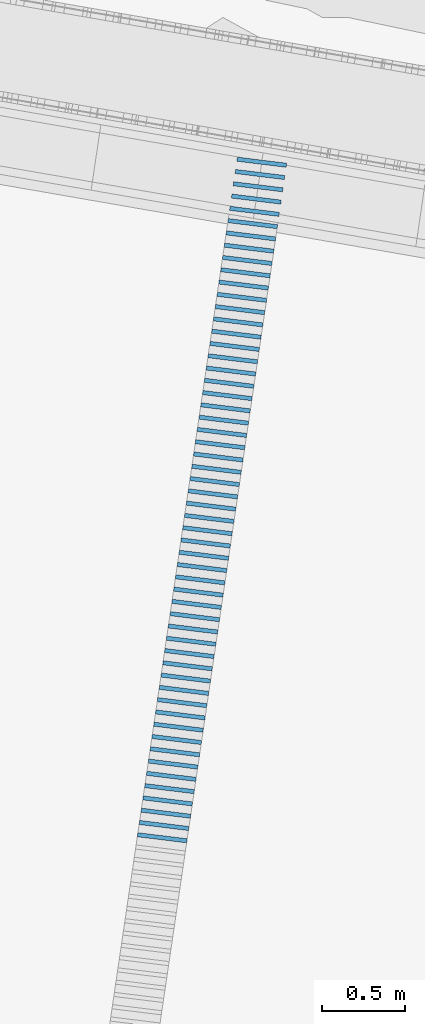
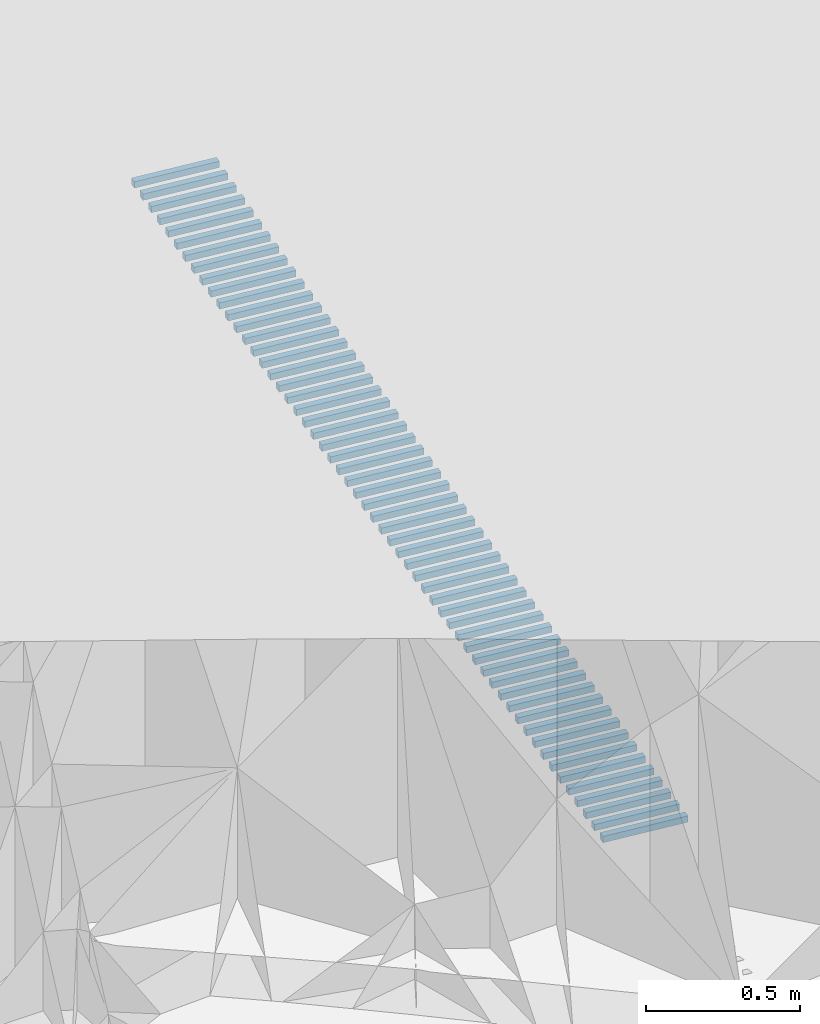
# Not in any storey, part 2 of 46: 56 members.
"""IFC4 model written with IfcOpenShell, lengths in metres."""

from ifc_helpers import new_model, si_unit, direction, frame, origin_with_axes, place, context, subcontext, project, spatial, rectangle, extrude, material, material_profile, profile_set, profile_usage, type_object, element, save


model = new_model("IFC4")

# Units and contexts
model_context = context("Model", 3, precision=1e-05, world=origin_with_axes(), true_north=direction((0.0, 1.0)))
body_context = subcontext(model_context, "Body", "Model", "MODEL_VIEW")
ifc_project = project(units=[si_unit("VOLUMEUNIT", "CUBIC_METRE"), si_unit("LENGTHUNIT", "METRE"), si_unit("AREAUNIT", "SQUARE_METRE")], contexts=[model_context])

# Site
site_placement = place(None, origin_with_axes())
site = spatial("IfcSite", under=ifc_project, at=site_placement, Name="Lares · Rua das Mercês · artigo 4771")

# Members
ifc_material = material(Name="Aço galvanizado / Stahl verzinkt", Category="steel")
ifc_material_profile = material_profile(ifc_material, rectangle(XDim=0.025, YDim=0.025))
ifc_profile_set = profile_set([ifc_material_profile], Name="R0.025")
ifc_profile_usage_1 = profile_usage(ifc_profile_set)
member_type = type_object("IfcMemberType", Name="R0.025 / galvanized", PredefinedType="NOTDEFINED", material=ifc_profile_set)
member_1_placement = place(site_placement, frame((49.1786063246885, 7.70309621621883, 13.6760261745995), z_axis=(0.992517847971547, -0.12209963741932, 0.0), x_axis=(-0.12209963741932, -0.992517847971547, 0.0)))
element("IfcMember", 1, at=member_1_placement, inside=site, type_object=member_type, material=ifc_profile_usage_1, Name="Interceção · grelha estacionamento", context=body_context, shape_type="SweptSolid", body=[
    extrude(rectangle(XDim=0.025, YDim=0.025), origin_with_axes(), (0.0, 0.0, 1.0), 0.300000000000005),
])
ifc_profile_usage_2 = profile_usage(ifc_profile_set)
member_2_placement = place(site_placement, frame((49.1895321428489, 7.77729612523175, 13.6741511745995), z_axis=(0.992517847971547, -0.12209963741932, 0.0), x_axis=(-0.12209963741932, -0.992517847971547, 0.0)))
element("IfcMember", 2, at=member_2_placement, inside=site, type_object=member_type, material=ifc_profile_usage_2, Name="Interceção · grelha estacionamento", context=body_context, shape_type="SweptSolid", body=[
    extrude(rectangle(XDim=0.025, YDim=0.025), origin_with_axes(), (0.0, 0.0, 1.0), 0.300000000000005),
])
ifc_profile_usage_3 = profile_usage(ifc_profile_set)
member_3_placement = place(site_placement, frame((49.2004579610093, 7.85149603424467, 13.6722761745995), z_axis=(0.992517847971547, -0.12209963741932, 0.0), x_axis=(-0.12209963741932, -0.992517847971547, 0.0)))
element("IfcMember", 3, at=member_3_placement, inside=site, type_object=member_type, material=ifc_profile_usage_3, Name="Interceção · grelha estacionamento", context=body_context, shape_type="SweptSolid", body=[
    extrude(rectangle(XDim=0.025, YDim=0.025), origin_with_axes(), (0.0, 0.0, 1.0), 0.300000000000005),
])
ifc_profile_usage_4 = profile_usage(ifc_profile_set)
member_4_placement = place(site_placement, frame((49.2113837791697, 7.92569594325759, 13.6704011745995), z_axis=(0.992517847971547, -0.12209963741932, 0.0), x_axis=(-0.12209963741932, -0.992517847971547, 0.0)))
element("IfcMember", 4, at=member_4_placement, inside=site, type_object=member_type, material=ifc_profile_usage_4, Name="Interceção · grelha estacionamento", context=body_context, shape_type="SweptSolid", body=[
    extrude(rectangle(XDim=0.025, YDim=0.025), origin_with_axes(), (0.0, 0.0, 1.0), 0.300000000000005),
])
ifc_profile_usage_5 = profile_usage(ifc_profile_set)
member_5_placement = place(site_placement, frame((49.2223095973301, 7.99989585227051, 13.6685261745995), z_axis=(0.992517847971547, -0.12209963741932, 0.0), x_axis=(-0.12209963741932, -0.992517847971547, 0.0)))
element("IfcMember", 5, at=member_5_placement, inside=site, type_object=member_type, material=ifc_profile_usage_5, Name="Interceção · grelha estacionamento", context=body_context, shape_type="SweptSolid", body=[
    extrude(rectangle(XDim=0.025, YDim=0.025), origin_with_axes(), (0.0, 0.0, 1.0), 0.300000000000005),
])
ifc_profile_usage_6 = profile_usage(ifc_profile_set)
member_6_placement = place(site_placement, frame((49.2332354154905, 8.07409576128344, 13.6666511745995), z_axis=(0.992517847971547, -0.12209963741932, 0.0), x_axis=(-0.12209963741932, -0.992517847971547, 0.0)))
element("IfcMember", 6, at=member_6_placement, inside=site, type_object=member_type, material=ifc_profile_usage_6, Name="Interceção · grelha estacionamento", context=body_context, shape_type="SweptSolid", body=[
    extrude(rectangle(XDim=0.025, YDim=0.025), origin_with_axes(), (0.0, 0.0, 1.0), 0.300000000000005),
])
ifc_profile_usage_7 = profile_usage(ifc_profile_set)
member_7_placement = place(site_placement, frame((49.244161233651, 8.14829567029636, 13.6647761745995), z_axis=(0.992517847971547, -0.12209963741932, 0.0), x_axis=(-0.12209963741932, -0.992517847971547, 0.0)))
element("IfcMember", 7, at=member_7_placement, inside=site, type_object=member_type, material=ifc_profile_usage_7, Name="Interceção · grelha estacionamento", context=body_context, shape_type="SweptSolid", body=[
    extrude(rectangle(XDim=0.025, YDim=0.025), origin_with_axes(), (0.0, 0.0, 1.0), 0.300000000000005),
])
ifc_profile_usage_8 = profile_usage(ifc_profile_set)
member_8_placement = place(site_placement, frame((49.2550870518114, 8.22249557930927, 13.6629011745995), z_axis=(0.992517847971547, -0.12209963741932, 0.0), x_axis=(-0.12209963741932, -0.992517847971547, 0.0)))
element("IfcMember", 8, at=member_8_placement, inside=site, type_object=member_type, material=ifc_profile_usage_8, Name="Interceção · grelha estacionamento", context=body_context, shape_type="SweptSolid", body=[
    extrude(rectangle(XDim=0.025, YDim=0.025), origin_with_axes(), (0.0, 0.0, 1.0), 0.300000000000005),
])
ifc_profile_usage_9 = profile_usage(ifc_profile_set)
member_9_placement = place(site_placement, frame((49.2660128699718, 8.2966954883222, 13.6610261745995), z_axis=(0.992517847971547, -0.12209963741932, 0.0), x_axis=(-0.12209963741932, -0.992517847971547, 0.0)))
element("IfcMember", 9, at=member_9_placement, inside=site, type_object=member_type, material=ifc_profile_usage_9, Name="Interceção · grelha estacionamento", context=body_context, shape_type="SweptSolid", body=[
    extrude(rectangle(XDim=0.025, YDim=0.025), origin_with_axes(), (0.0, 0.0, 1.0), 0.300000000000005),
])
ifc_profile_usage_10 = profile_usage(ifc_profile_set)
member_10_placement = place(site_placement, frame((49.2769386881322, 8.37089539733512, 13.6591511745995), z_axis=(0.992517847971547, -0.12209963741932, 0.0), x_axis=(-0.12209963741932, -0.992517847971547, 0.0)))
element("IfcMember", 10, at=member_10_placement, inside=site, type_object=member_type, material=ifc_profile_usage_10, Name="Interceção · grelha estacionamento", context=body_context, shape_type="SweptSolid", body=[
    extrude(rectangle(XDim=0.025, YDim=0.025), origin_with_axes(), (0.0, 0.0, 1.0), 0.300000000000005),
])
ifc_profile_usage_11 = profile_usage(ifc_profile_set)
member_11_placement = place(site_placement, frame((49.2878645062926, 8.44509530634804, 13.6572761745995), z_axis=(0.992517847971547, -0.12209963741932, 0.0), x_axis=(-0.12209963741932, -0.992517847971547, 0.0)))
element("IfcMember", 11, at=member_11_placement, inside=site, type_object=member_type, material=ifc_profile_usage_11, Name="Interceção · grelha estacionamento", context=body_context, shape_type="SweptSolid", body=[
    extrude(rectangle(XDim=0.025, YDim=0.025), origin_with_axes(), (0.0, 0.0, 1.0), 0.300000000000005),
])
ifc_profile_usage_12 = profile_usage(ifc_profile_set)
member_12_placement = place(site_placement, frame((49.298790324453, 8.51929521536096, 13.6554011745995), z_axis=(0.992517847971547, -0.12209963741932, 0.0), x_axis=(-0.12209963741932, -0.992517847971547, 0.0)))
element("IfcMember", 12, at=member_12_placement, inside=site, type_object=member_type, material=ifc_profile_usage_12, Name="Interceção · grelha estacionamento", context=body_context, shape_type="SweptSolid", body=[
    extrude(rectangle(XDim=0.025, YDim=0.025), origin_with_axes(), (0.0, 0.0, 1.0), 0.300000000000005),
])
ifc_profile_usage_13 = profile_usage(ifc_profile_set)
member_13_placement = place(site_placement, frame((49.3097161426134, 8.59349512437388, 13.6535261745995), z_axis=(0.992517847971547, -0.12209963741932, 0.0), x_axis=(-0.12209963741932, -0.992517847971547, 0.0)))
element("IfcMember", 13, at=member_13_placement, inside=site, type_object=member_type, material=ifc_profile_usage_13, Name="Interceção · grelha estacionamento", context=body_context, shape_type="SweptSolid", body=[
    extrude(rectangle(XDim=0.025, YDim=0.025), origin_with_axes(), (0.0, 0.0, 1.0), 0.300000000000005),
])
ifc_profile_usage_14 = profile_usage(ifc_profile_set)
member_14_placement = place(site_placement, frame((49.3206419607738, 8.6676950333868, 13.6516511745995), z_axis=(0.992517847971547, -0.12209963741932, 0.0), x_axis=(-0.12209963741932, -0.992517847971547, 0.0)))
element("IfcMember", 14, at=member_14_placement, inside=site, type_object=member_type, material=ifc_profile_usage_14, Name="Interceção · grelha estacionamento", context=body_context, shape_type="SweptSolid", body=[
    extrude(rectangle(XDim=0.025, YDim=0.025), origin_with_axes(), (0.0, 0.0, 1.0), 0.300000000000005),
])
ifc_profile_usage_15 = profile_usage(ifc_profile_set)
member_15_placement = place(site_placement, frame((49.3315677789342, 8.74189494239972, 13.6497761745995), z_axis=(0.992517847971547, -0.12209963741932, 0.0), x_axis=(-0.12209963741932, -0.992517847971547, 0.0)))
element("IfcMember", 15, at=member_15_placement, inside=site, type_object=member_type, material=ifc_profile_usage_15, Name="Interceção · grelha estacionamento", context=body_context, shape_type="SweptSolid", body=[
    extrude(rectangle(XDim=0.025, YDim=0.025), origin_with_axes(), (0.0, 0.0, 1.0), 0.300000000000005),
])
ifc_profile_usage_16 = profile_usage(ifc_profile_set)
member_16_placement = place(site_placement, frame((49.3424935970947, 8.81609485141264, 13.6479011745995), z_axis=(0.992517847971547, -0.12209963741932, 0.0), x_axis=(-0.12209963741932, -0.992517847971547, 0.0)))
element("IfcMember", 16, at=member_16_placement, inside=site, type_object=member_type, material=ifc_profile_usage_16, Name="Interceção · grelha estacionamento", context=body_context, shape_type="SweptSolid", body=[
    extrude(rectangle(XDim=0.025, YDim=0.025), origin_with_axes(), (0.0, 0.0, 1.0), 0.300000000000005),
])
ifc_profile_usage_17 = profile_usage(ifc_profile_set)
member_17_placement = place(site_placement, frame((49.3534194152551, 8.89029476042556, 13.6460261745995), z_axis=(0.992517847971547, -0.12209963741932, 0.0), x_axis=(-0.12209963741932, -0.992517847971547, 0.0)))
element("IfcMember", 17, at=member_17_placement, inside=site, type_object=member_type, material=ifc_profile_usage_17, Name="Interceção · grelha estacionamento", context=body_context, shape_type="SweptSolid", body=[
    extrude(rectangle(XDim=0.025, YDim=0.025), origin_with_axes(), (0.0, 0.0, 1.0), 0.300000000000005),
])
ifc_profile_usage_18 = profile_usage(ifc_profile_set)
member_18_placement = place(site_placement, frame((49.3643452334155, 8.96449466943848, 13.6441511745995), z_axis=(0.992517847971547, -0.12209963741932, 0.0), x_axis=(-0.12209963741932, -0.992517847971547, 0.0)))
element("IfcMember", 18, at=member_18_placement, inside=site, type_object=member_type, material=ifc_profile_usage_18, Name="Interceção · grelha estacionamento", context=body_context, shape_type="SweptSolid", body=[
    extrude(rectangle(XDim=0.025, YDim=0.025), origin_with_axes(), (0.0, 0.0, 1.0), 0.300000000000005),
])
ifc_profile_usage_19 = profile_usage(ifc_profile_set)
member_19_placement = place(site_placement, frame((49.3752710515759, 9.0386945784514, 13.6422761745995), z_axis=(0.992517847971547, -0.12209963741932, 0.0), x_axis=(-0.12209963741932, -0.992517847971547, 0.0)))
element("IfcMember", 19, at=member_19_placement, inside=site, type_object=member_type, material=ifc_profile_usage_19, Name="Interceção · grelha estacionamento", context=body_context, shape_type="SweptSolid", body=[
    extrude(rectangle(XDim=0.025, YDim=0.025), origin_with_axes(), (0.0, 0.0, 1.0), 0.300000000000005),
])
ifc_profile_usage_20 = profile_usage(ifc_profile_set)
member_20_placement = place(site_placement, frame((49.3861968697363, 9.11289448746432, 13.6404011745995), z_axis=(0.992517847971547, -0.12209963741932, 0.0), x_axis=(-0.12209963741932, -0.992517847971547, 0.0)))
element("IfcMember", 20, at=member_20_placement, inside=site, type_object=member_type, material=ifc_profile_usage_20, Name="Interceção · grelha estacionamento", context=body_context, shape_type="SweptSolid", body=[
    extrude(rectangle(XDim=0.025, YDim=0.025), origin_with_axes(), (0.0, 0.0, 1.0), 0.300000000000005),
])
ifc_profile_usage_21 = profile_usage(ifc_profile_set)
member_21_placement = place(site_placement, frame((49.3971226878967, 9.18709439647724, 13.6385261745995), z_axis=(0.992517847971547, -0.12209963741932, 0.0), x_axis=(-0.12209963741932, -0.992517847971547, 0.0)))
element("IfcMember", 21, at=member_21_placement, inside=site, type_object=member_type, material=ifc_profile_usage_21, Name="Interceção · grelha estacionamento", context=body_context, shape_type="SweptSolid", body=[
    extrude(rectangle(XDim=0.025, YDim=0.025), origin_with_axes(), (0.0, 0.0, 1.0), 0.300000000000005),
])
ifc_profile_usage_22 = profile_usage(ifc_profile_set)
member_22_placement = place(site_placement, frame((49.4080485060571, 9.26129430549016, 13.6366511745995), z_axis=(0.992517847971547, -0.12209963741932, 0.0), x_axis=(-0.12209963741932, -0.992517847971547, 0.0)))
element("IfcMember", 22, at=member_22_placement, inside=site, type_object=member_type, material=ifc_profile_usage_22, Name="Interceção · grelha estacionamento", context=body_context, shape_type="SweptSolid", body=[
    extrude(rectangle(XDim=0.025, YDim=0.025), origin_with_axes(), (0.0, 0.0, 1.0), 0.300000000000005),
])
ifc_profile_usage_23 = profile_usage(ifc_profile_set)
member_23_placement = place(site_placement, frame((49.4189743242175, 9.33549421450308, 13.6347761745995), z_axis=(0.992517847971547, -0.12209963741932, 0.0), x_axis=(-0.12209963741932, -0.992517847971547, 0.0)))
element("IfcMember", 23, at=member_23_placement, inside=site, type_object=member_type, material=ifc_profile_usage_23, Name="Interceção · grelha estacionamento", context=body_context, shape_type="SweptSolid", body=[
    extrude(rectangle(XDim=0.025, YDim=0.025), origin_with_axes(), (0.0, 0.0, 1.0), 0.300000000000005),
])
ifc_profile_usage_24 = profile_usage(ifc_profile_set)
member_24_placement = place(site_placement, frame((49.4299001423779, 9.409694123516, 13.6329011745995), z_axis=(0.992517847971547, -0.12209963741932, 0.0), x_axis=(-0.12209963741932, -0.992517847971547, 0.0)))
element("IfcMember", 24, at=member_24_placement, inside=site, type_object=member_type, material=ifc_profile_usage_24, Name="Interceção · grelha estacionamento", context=body_context, shape_type="SweptSolid", body=[
    extrude(rectangle(XDim=0.025, YDim=0.025), origin_with_axes(), (0.0, 0.0, 1.0), 0.300000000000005),
])
ifc_profile_usage_25 = profile_usage(ifc_profile_set)
member_25_placement = place(site_placement, frame((49.4408259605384, 9.48389403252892, 13.6310261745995), z_axis=(0.992517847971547, -0.12209963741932, 0.0), x_axis=(-0.12209963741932, -0.992517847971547, 0.0)))
element("IfcMember", 25, at=member_25_placement, inside=site, type_object=member_type, material=ifc_profile_usage_25, Name="Interceção · grelha estacionamento", context=body_context, shape_type="SweptSolid", body=[
    extrude(rectangle(XDim=0.025, YDim=0.025), origin_with_axes(), (0.0, 0.0, 1.0), 0.300000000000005),
])
ifc_profile_usage_26 = profile_usage(ifc_profile_set)
member_26_placement = place(site_placement, frame((49.4517517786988, 9.55809394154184, 13.6291511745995), z_axis=(0.992517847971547, -0.12209963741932, 0.0), x_axis=(-0.12209963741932, -0.992517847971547, 0.0)))
element("IfcMember", 26, at=member_26_placement, inside=site, type_object=member_type, material=ifc_profile_usage_26, Name="Interceção · grelha estacionamento", context=body_context, shape_type="SweptSolid", body=[
    extrude(rectangle(XDim=0.025, YDim=0.025), origin_with_axes(), (0.0, 0.0, 1.0), 0.300000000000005),
])
ifc_profile_usage_27 = profile_usage(ifc_profile_set)
member_27_placement = place(site_placement, frame((49.4626775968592, 9.63229385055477, 13.6272761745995), z_axis=(0.992517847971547, -0.12209963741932, 0.0), x_axis=(-0.12209963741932, -0.992517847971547, 0.0)))
element("IfcMember", 27, at=member_27_placement, inside=site, type_object=member_type, material=ifc_profile_usage_27, Name="Interceção · grelha estacionamento", context=body_context, shape_type="SweptSolid", body=[
    extrude(rectangle(XDim=0.025, YDim=0.025), origin_with_axes(), (0.0, 0.0, 1.0), 0.300000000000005),
])
ifc_profile_usage_28 = profile_usage(ifc_profile_set)
member_28_placement = place(site_placement, frame((49.4736034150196, 9.70649375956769, 13.6254011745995), z_axis=(0.992517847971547, -0.12209963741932, 0.0), x_axis=(-0.12209963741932, -0.992517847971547, 0.0)))
element("IfcMember", 28, at=member_28_placement, inside=site, type_object=member_type, material=ifc_profile_usage_28, Name="Interceção · grelha estacionamento", context=body_context, shape_type="SweptSolid", body=[
    extrude(rectangle(XDim=0.025, YDim=0.025), origin_with_axes(), (0.0, 0.0, 1.0), 0.300000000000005),
])
ifc_profile_usage_29 = profile_usage(ifc_profile_set)
member_29_placement = place(site_placement, frame((49.48452923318, 9.78069366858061, 13.6235261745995), z_axis=(0.992517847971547, -0.12209963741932, 0.0), x_axis=(-0.12209963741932, -0.992517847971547, 0.0)))
element("IfcMember", 29, at=member_29_placement, inside=site, type_object=member_type, material=ifc_profile_usage_29, Name="Interceção · grelha estacionamento", context=body_context, shape_type="SweptSolid", body=[
    extrude(rectangle(XDim=0.025, YDim=0.025), origin_with_axes(), (0.0, 0.0, 1.0), 0.300000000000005),
])
ifc_profile_usage_30 = profile_usage(ifc_profile_set)
member_30_placement = place(site_placement, frame((49.4954550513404, 9.85489357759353, 13.6216511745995), z_axis=(0.992517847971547, -0.12209963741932, 0.0), x_axis=(-0.12209963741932, -0.992517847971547, 0.0)))
element("IfcMember", 30, at=member_30_placement, inside=site, type_object=member_type, material=ifc_profile_usage_30, Name="Interceção · grelha estacionamento", context=body_context, shape_type="SweptSolid", body=[
    extrude(rectangle(XDim=0.025, YDim=0.025), origin_with_axes(), (0.0, 0.0, 1.0), 0.300000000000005),
])
ifc_profile_usage_31 = profile_usage(ifc_profile_set)
member_31_placement = place(site_placement, frame((49.5063808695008, 9.92909348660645, 13.6197761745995), z_axis=(0.992517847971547, -0.12209963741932, 0.0), x_axis=(-0.12209963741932, -0.992517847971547, 0.0)))
element("IfcMember", 31, at=member_31_placement, inside=site, type_object=member_type, material=ifc_profile_usage_31, Name="Interceção · grelha estacionamento", context=body_context, shape_type="SweptSolid", body=[
    extrude(rectangle(XDim=0.025, YDim=0.025), origin_with_axes(), (0.0, 0.0, 1.0), 0.300000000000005),
])
ifc_profile_usage_32 = profile_usage(ifc_profile_set)
member_32_placement = place(site_placement, frame((49.5173066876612, 10.0032933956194, 13.6179011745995), z_axis=(0.992517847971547, -0.12209963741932, 0.0), x_axis=(-0.12209963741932, -0.992517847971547, 0.0)))
element("IfcMember", 32, at=member_32_placement, inside=site, type_object=member_type, material=ifc_profile_usage_32, Name="Interceção · grelha estacionamento", context=body_context, shape_type="SweptSolid", body=[
    extrude(rectangle(XDim=0.025, YDim=0.025), origin_with_axes(), (0.0, 0.0, 1.0), 0.300000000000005),
])
ifc_profile_usage_33 = profile_usage(ifc_profile_set)
member_33_placement = place(site_placement, frame((49.5282325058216, 10.0774933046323, 13.6160261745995), z_axis=(0.992517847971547, -0.12209963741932, 0.0), x_axis=(-0.12209963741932, -0.992517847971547, 0.0)))
element("IfcMember", 33, at=member_33_placement, inside=site, type_object=member_type, material=ifc_profile_usage_33, Name="Interceção · grelha estacionamento", context=body_context, shape_type="SweptSolid", body=[
    extrude(rectangle(XDim=0.025, YDim=0.025), origin_with_axes(), (0.0, 0.0, 1.0), 0.300000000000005),
])
ifc_profile_usage_34 = profile_usage(ifc_profile_set)
member_34_placement = place(site_placement, frame((49.5391583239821, 10.1516932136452, 13.6141511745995), z_axis=(0.992517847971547, -0.12209963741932, 0.0), x_axis=(-0.12209963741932, -0.992517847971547, 0.0)))
element("IfcMember", 34, at=member_34_placement, inside=site, type_object=member_type, material=ifc_profile_usage_34, Name="Interceção · grelha estacionamento", context=body_context, shape_type="SweptSolid", body=[
    extrude(rectangle(XDim=0.025, YDim=0.025), origin_with_axes(), (0.0, 0.0, 1.0), 0.300000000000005),
])
ifc_profile_usage_35 = profile_usage(ifc_profile_set)
member_35_placement = place(site_placement, frame((49.5500841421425, 10.2258931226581, 13.6122761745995), z_axis=(0.992517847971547, -0.12209963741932, 0.0), x_axis=(-0.12209963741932, -0.992517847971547, 0.0)))
element("IfcMember", 35, at=member_35_placement, inside=site, type_object=member_type, material=ifc_profile_usage_35, Name="Interceção · grelha estacionamento", context=body_context, shape_type="SweptSolid", body=[
    extrude(rectangle(XDim=0.025, YDim=0.025), origin_with_axes(), (0.0, 0.0, 1.0), 0.300000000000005),
])
ifc_profile_usage_36 = profile_usage(ifc_profile_set)
member_36_placement = place(site_placement, frame((49.5610099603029, 10.3000930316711, 13.6104011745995), z_axis=(0.992517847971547, -0.12209963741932, 0.0), x_axis=(-0.12209963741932, -0.992517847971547, 0.0)))
element("IfcMember", 36, at=member_36_placement, inside=site, type_object=member_type, material=ifc_profile_usage_36, Name="Interceção · grelha estacionamento", context=body_context, shape_type="SweptSolid", body=[
    extrude(rectangle(XDim=0.025, YDim=0.025), origin_with_axes(), (0.0, 0.0, 1.0), 0.300000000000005),
])
ifc_profile_usage_37 = profile_usage(ifc_profile_set)
member_37_placement = place(site_placement, frame((49.5719357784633, 10.374292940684, 13.6085261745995), z_axis=(0.992517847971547, -0.12209963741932, 0.0), x_axis=(-0.12209963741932, -0.992517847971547, 0.0)))
element("IfcMember", 37, at=member_37_placement, inside=site, type_object=member_type, material=ifc_profile_usage_37, Name="Interceção · grelha estacionamento", context=body_context, shape_type="SweptSolid", body=[
    extrude(rectangle(XDim=0.025, YDim=0.025), origin_with_axes(), (0.0, 0.0, 1.0), 0.300000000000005),
])
ifc_profile_usage_38 = profile_usage(ifc_profile_set)
member_38_placement = place(site_placement, frame((49.5828615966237, 10.4484928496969, 13.6066511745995), z_axis=(0.992517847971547, -0.12209963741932, 0.0), x_axis=(-0.12209963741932, -0.992517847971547, 0.0)))
element("IfcMember", 38, at=member_38_placement, inside=site, type_object=member_type, material=ifc_profile_usage_38, Name="Interceção · grelha estacionamento", context=body_context, shape_type="SweptSolid", body=[
    extrude(rectangle(XDim=0.025, YDim=0.025), origin_with_axes(), (0.0, 0.0, 1.0), 0.300000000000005),
])
ifc_profile_usage_39 = profile_usage(ifc_profile_set)
member_39_placement = place(site_placement, frame((49.5937874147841, 10.5226927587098, 13.6047761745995), z_axis=(0.992517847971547, -0.12209963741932, 0.0), x_axis=(-0.12209963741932, -0.992517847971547, 0.0)))
element("IfcMember", 39, at=member_39_placement, inside=site, type_object=member_type, material=ifc_profile_usage_39, Name="Interceção · grelha estacionamento", context=body_context, shape_type="SweptSolid", body=[
    extrude(rectangle(XDim=0.025, YDim=0.025), origin_with_axes(), (0.0, 0.0, 1.0), 0.300000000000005),
])
ifc_profile_usage_40 = profile_usage(ifc_profile_set)
member_40_placement = place(site_placement, frame((49.6047132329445, 10.5968926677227, 13.6029011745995), z_axis=(0.992517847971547, -0.12209963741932, 0.0), x_axis=(-0.12209963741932, -0.992517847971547, 0.0)))
element("IfcMember", 40, at=member_40_placement, inside=site, type_object=member_type, material=ifc_profile_usage_40, Name="Interceção · grelha estacionamento", context=body_context, shape_type="SweptSolid", body=[
    extrude(rectangle(XDim=0.025, YDim=0.025), origin_with_axes(), (0.0, 0.0, 1.0), 0.300000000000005),
])
ifc_profile_usage_41 = profile_usage(ifc_profile_set)
member_41_placement = place(site_placement, frame((49.6156390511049, 10.6710925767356, 13.6010261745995), z_axis=(0.992517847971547, -0.12209963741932, 0.0), x_axis=(-0.12209963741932, -0.992517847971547, 0.0)))
element("IfcMember", 41, at=member_41_placement, inside=site, type_object=member_type, material=ifc_profile_usage_41, Name="Interceção · grelha estacionamento", context=body_context, shape_type="SweptSolid", body=[
    extrude(rectangle(XDim=0.025, YDim=0.025), origin_with_axes(), (0.0, 0.0, 1.0), 0.300000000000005),
])
ifc_profile_usage_42 = profile_usage(ifc_profile_set)
member_42_placement = place(site_placement, frame((49.6265648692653, 10.7452924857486, 13.5991511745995), z_axis=(0.992517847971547, -0.12209963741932, 0.0), x_axis=(-0.12209963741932, -0.992517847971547, 0.0)))
element("IfcMember", 42, at=member_42_placement, inside=site, type_object=member_type, material=ifc_profile_usage_42, Name="Interceção · grelha estacionamento", context=body_context, shape_type="SweptSolid", body=[
    extrude(rectangle(XDim=0.025, YDim=0.025), origin_with_axes(), (0.0, 0.0, 1.0), 0.300000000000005),
])
ifc_profile_usage_43 = profile_usage(ifc_profile_set)
member_43_placement = place(site_placement, frame((49.6374906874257, 10.8194923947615, 13.5972761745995), z_axis=(0.992517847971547, -0.12209963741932, 0.0), x_axis=(-0.12209963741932, -0.992517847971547, 0.0)))
element("IfcMember", 43, at=member_43_placement, inside=site, type_object=member_type, material=ifc_profile_usage_43, Name="Interceção · grelha estacionamento", context=body_context, shape_type="SweptSolid", body=[
    extrude(rectangle(XDim=0.025, YDim=0.025), origin_with_axes(), (0.0, 0.0, 1.0), 0.300000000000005),
])
ifc_profile_usage_44 = profile_usage(ifc_profile_set)
member_44_placement = place(site_placement, frame((49.6484165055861, 10.8936923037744, 13.5954011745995), z_axis=(0.992517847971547, -0.12209963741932, 0.0), x_axis=(-0.12209963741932, -0.992517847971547, 0.0)))
element("IfcMember", 44, at=member_44_placement, inside=site, type_object=member_type, material=ifc_profile_usage_44, Name="Interceção · grelha estacionamento", context=body_context, shape_type="SweptSolid", body=[
    extrude(rectangle(XDim=0.025, YDim=0.025), origin_with_axes(), (0.0, 0.0, 1.0), 0.300000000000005),
])
ifc_profile_usage_45 = profile_usage(ifc_profile_set)
member_45_placement = place(site_placement, frame((49.6593423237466, 10.9678922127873, 13.5935261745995), z_axis=(0.992517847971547, -0.12209963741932, 0.0), x_axis=(-0.12209963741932, -0.992517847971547, 0.0)))
element("IfcMember", 45, at=member_45_placement, inside=site, type_object=member_type, material=ifc_profile_usage_45, Name="Interceção · grelha estacionamento", context=body_context, shape_type="SweptSolid", body=[
    extrude(rectangle(XDim=0.025, YDim=0.025), origin_with_axes(), (0.0, 0.0, 1.0), 0.300000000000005),
])
ifc_profile_usage_46 = profile_usage(ifc_profile_set)
member_46_placement = place(site_placement, frame((49.670268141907, 11.0420921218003, 13.5916511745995), z_axis=(0.992517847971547, -0.12209963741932, 0.0), x_axis=(-0.12209963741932, -0.992517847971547, 0.0)))
element("IfcMember", 46, at=member_46_placement, inside=site, type_object=member_type, material=ifc_profile_usage_46, Name="Interceção · grelha estacionamento", context=body_context, shape_type="SweptSolid", body=[
    extrude(rectangle(XDim=0.025, YDim=0.025), origin_with_axes(), (0.0, 0.0, 1.0), 0.300000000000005),
])
ifc_profile_usage_47 = profile_usage(ifc_profile_set)
member_47_placement = place(site_placement, frame((49.6811939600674, 11.1162920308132, 13.5897761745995), z_axis=(0.992517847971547, -0.12209963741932, 0.0), x_axis=(-0.12209963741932, -0.992517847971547, 0.0)))
element("IfcMember", 47, at=member_47_placement, inside=site, type_object=member_type, material=ifc_profile_usage_47, Name="Interceção · grelha estacionamento", context=body_context, shape_type="SweptSolid", body=[
    extrude(rectangle(XDim=0.025, YDim=0.025), origin_with_axes(), (0.0, 0.0, 1.0), 0.300000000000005),
])
ifc_profile_usage_48 = profile_usage(ifc_profile_set)
member_48_placement = place(site_placement, frame((49.6921197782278, 11.1904919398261, 13.5879011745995), z_axis=(0.992517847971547, -0.12209963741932, 0.0), x_axis=(-0.12209963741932, -0.992517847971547, 0.0)))
element("IfcMember", 48, at=member_48_placement, inside=site, type_object=member_type, material=ifc_profile_usage_48, Name="Interceção · grelha estacionamento", context=body_context, shape_type="SweptSolid", body=[
    extrude(rectangle(XDim=0.025, YDim=0.025), origin_with_axes(), (0.0, 0.0, 1.0), 0.300000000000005),
])
ifc_profile_usage_49 = profile_usage(ifc_profile_set)
member_49_placement = place(site_placement, frame((49.7030455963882, 11.264691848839, 13.5860261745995), z_axis=(0.992517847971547, -0.12209963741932, 0.0), x_axis=(-0.12209963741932, -0.992517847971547, 0.0)))
element("IfcMember", 49, at=member_49_placement, inside=site, type_object=member_type, material=ifc_profile_usage_49, Name="Interceção · grelha estacionamento", context=body_context, shape_type="SweptSolid", body=[
    extrude(rectangle(XDim=0.025, YDim=0.025), origin_with_axes(), (0.0, 0.0, 1.0), 0.300000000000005),
])
ifc_profile_usage_50 = profile_usage(ifc_profile_set)
member_50_placement = place(site_placement, frame((49.7139714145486, 11.3388917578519, 13.5841511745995), z_axis=(0.992517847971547, -0.12209963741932, 0.0), x_axis=(-0.12209963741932, -0.992517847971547, 0.0)))
element("IfcMember", 50, at=member_50_placement, inside=site, type_object=member_type, material=ifc_profile_usage_50, Name="Interceção · grelha estacionamento", context=body_context, shape_type="SweptSolid", body=[
    extrude(rectangle(XDim=0.025, YDim=0.025), origin_with_axes(), (0.0, 0.0, 1.0), 0.300000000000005),
])
ifc_profile_usage_51 = profile_usage(ifc_profile_set)
member_51_placement = place(site_placement, frame((49.724897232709, 11.4130916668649, 13.5829738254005), z_axis=(0.992517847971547, -0.12209963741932, 0.0), x_axis=(-0.12209963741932, -0.992517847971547, 0.0)))
element("IfcMember", 51, at=member_51_placement, inside=site, type_object=member_type, material=ifc_profile_usage_51, Name="Interceção · grelha estacionamento", context=body_context, shape_type="SweptSolid", body=[
    extrude(rectangle(XDim=0.025, YDim=0.025), origin_with_axes(), (0.0, 0.0, 1.0), 0.300000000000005),
])
ifc_profile_usage_52 = profile_usage(ifc_profile_set)
member_52_placement = place(site_placement, frame((49.7358230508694, 11.4872915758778, 13.5829738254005), z_axis=(0.992517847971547, -0.12209963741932, 0.0), x_axis=(-0.12209963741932, -0.992517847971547, 0.0)))
element("IfcMember", 52, at=member_52_placement, inside=site, type_object=member_type, material=ifc_profile_usage_52, Name="Interceção · grelha estacionamento", context=body_context, shape_type="SweptSolid", body=[
    extrude(rectangle(XDim=0.025, YDim=0.025), origin_with_axes(), (0.0, 0.0, 1.0), 0.300000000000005),
])
ifc_profile_usage_53 = profile_usage(ifc_profile_set)
member_53_placement = place(site_placement, frame((49.7467488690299, 11.5614914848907, 13.5829738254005), z_axis=(0.992517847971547, -0.12209963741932, 0.0), x_axis=(-0.12209963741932, -0.992517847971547, 0.0)))
element("IfcMember", 53, at=member_53_placement, inside=site, type_object=member_type, material=ifc_profile_usage_53, Name="Interceção · grelha estacionamento", context=body_context, shape_type="SweptSolid", body=[
    extrude(rectangle(XDim=0.025, YDim=0.025), origin_with_axes(), (0.0, 0.0, 1.0), 0.300000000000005),
])
ifc_profile_usage_54 = profile_usage(ifc_profile_set)
member_54_placement = place(site_placement, frame((49.7576746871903, 11.6356913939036, 13.5829738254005), z_axis=(0.992517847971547, -0.12209963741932, 0.0), x_axis=(-0.12209963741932, -0.992517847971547, 0.0)))
element("IfcMember", 54, at=member_54_placement, inside=site, type_object=member_type, material=ifc_profile_usage_54, Name="Interceção · grelha estacionamento", context=body_context, shape_type="SweptSolid", body=[
    extrude(rectangle(XDim=0.025, YDim=0.025), origin_with_axes(), (0.0, 0.0, 1.0), 0.300000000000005),
])
ifc_profile_usage_55 = profile_usage(ifc_profile_set)
member_55_placement = place(site_placement, frame((49.7686005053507, 11.7098913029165, 13.5829738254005), z_axis=(0.992517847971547, -0.12209963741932, 0.0), x_axis=(-0.12209963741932, -0.992517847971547, 0.0)))
element("IfcMember", 55, at=member_55_placement, inside=site, type_object=member_type, material=ifc_profile_usage_55, Name="Interceção · grelha estacionamento", context=body_context, shape_type="SweptSolid", body=[
    extrude(rectangle(XDim=0.025, YDim=0.025), origin_with_axes(), (0.0, 0.0, 1.0), 0.300000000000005),
])
ifc_profile_usage_56 = profile_usage(ifc_profile_set)
member_56_placement = place(site_placement, frame((49.7795263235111, 11.7840912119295, 13.5829738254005), z_axis=(0.992517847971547, -0.12209963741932, 0.0), x_axis=(-0.12209963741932, -0.992517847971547, 0.0)))
element("IfcMember", 56, at=member_56_placement, inside=site, type_object=member_type, material=ifc_profile_usage_56, Name="Interceção · grelha estacionamento", context=body_context, shape_type="SweptSolid", body=[
    extrude(rectangle(XDim=0.025, YDim=0.025), origin_with_axes(), (0.0, 0.0, 1.0), 0.300000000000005),
])

save(model, "model.ifc")
